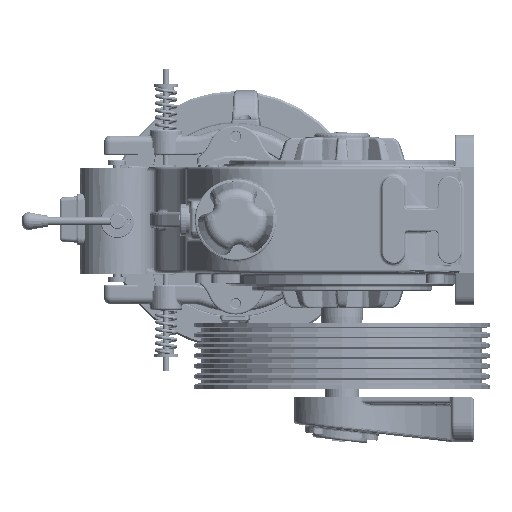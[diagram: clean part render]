
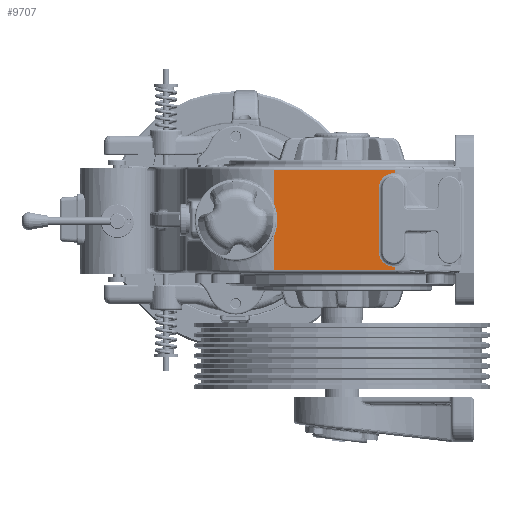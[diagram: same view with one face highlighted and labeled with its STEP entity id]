
A CAD part, left-side view. The second image highlights one B-rep face of the part: STEP entity #9707.
In plain terms, the highlighted planar face has unit normal (-1, 0, 0).
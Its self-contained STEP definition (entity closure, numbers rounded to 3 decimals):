
#4154 = CIRCLE ( 'NONE', #75237, 22.5 ) ;
#4741 = AXIS2_PLACEMENT_3D ( 'NONE', #220190, #175713, #200710 ) ;
#4987 = PLANE ( 'NONE',  #195055 ) ;
#9707 = ADVANCED_FACE ( 'NONE', ( #257783 ), #4987, .F. ) ;
#10044 = EDGE_CURVE ( 'NONE', #202578, #268101, #204014, .T. ) ;
#14829 = ORIENTED_EDGE ( 'NONE', *, *, #257390, .T. ) ;
#16286 = EDGE_CURVE ( 'NONE', #139537, #52850, #189203, .T. ) ;
#23139 = DIRECTION ( 'NONE',  ( 1., 0., 0. ) ) ;
#23365 = ORIENTED_EDGE ( 'NONE', *, *, #16286, .T. ) ;
#25845 = LINE ( 'NONE', #68920, #213532 ) ;
#31592 = AXIS2_PLACEMENT_3D ( 'NONE', #75053, #94516, #34732 ) ;
#34592 = CIRCLE ( 'NONE', #234020, 22.5 ) ;
#34732 = DIRECTION ( 'NONE',  ( 0., 0., -1. ) ) ;
#36723 = VECTOR ( 'NONE', #50627, 1000. ) ;
#38863 = VERTEX_POINT ( 'NONE', #162237 ) ;
#40858 = CARTESIAN_POINT ( 'NONE',  ( -468.28, -48.63, 138.545 ) ) ;
#44433 = VECTOR ( 'NONE', #76327, 1000. ) ;
#44445 = CARTESIAN_POINT ( 'NONE',  ( -468.28, -48.63, -21.455 ) ) ;
#45765 = DIRECTION ( 'NONE',  ( 0., 0., -1. ) ) ;
#48076 = DIRECTION ( 'NONE',  ( 0., 0., -1. ) ) ;
#48420 = EDGE_CURVE ( 'NONE', #205906, #160854, #267111, .T. ) ;
#50627 = DIRECTION ( 'NONE',  ( 0., 0., -1. ) ) ;
#51247 = CARTESIAN_POINT ( 'NONE',  ( -468.28, -234.729, -16.455 ) ) ;
#52850 = VERTEX_POINT ( 'NONE', #161197 ) ;
#55326 = EDGE_LOOP ( 'NONE', ( #78955, #169351, #201358, #23365, #69341, #14829, #149983, #190744, #159263, #251594, #75972 ) ) ;
#64231 = DIRECTION ( 'NONE',  ( 0., -1., 0. ) ) ;
#64805 = EDGE_CURVE ( 'NONE', #202578, #205906, #162023, .T. ) ;
#68920 = CARTESIAN_POINT ( 'NONE',  ( -468.28, -237.748, 138.545 ) ) ;
#69341 = ORIENTED_EDGE ( 'NONE', *, *, #71403, .F. ) ;
#69970 = EDGE_CURVE ( 'NONE', #160854, #159566, #137852, .T. ) ;
#70769 = EDGE_CURVE ( 'NONE', #166287, #183401, #111388, .T. ) ;
#71403 = EDGE_CURVE ( 'NONE', #149821, #52850, #25845, .T. ) ;
#75009 = EDGE_CURVE ( 'NONE', #183401, #38863, #201374, .T. ) ;
#75053 = CARTESIAN_POINT ( 'NONE',  ( -468.28, -234.729, 6.045 ) ) ;
#75237 = AXIS2_PLACEMENT_3D ( 'NONE', #138604, #119056, #134483 ) ;
#75972 = ORIENTED_EDGE ( 'NONE', *, *, #64805, .T. ) ;
#76327 = DIRECTION ( 'NONE',  ( 0., 0., -1. ) ) ;
#78955 = ORIENTED_EDGE ( 'NONE', *, *, #48420, .T. ) ;
#94391 = CARTESIAN_POINT ( 'NONE',  ( -468.28, -48.63, 28.556 ) ) ;
#94516 = DIRECTION ( 'NONE',  ( 1., 0., 0. ) ) ;
#97018 = VECTOR ( 'NONE', #159301, 1000. ) ;
#111388 = CIRCLE ( 'NONE', #31592, 22.5 ) ;
#119056 = DIRECTION ( 'NONE',  ( 1., 0., 0. ) ) ;
#133215 = CARTESIAN_POINT ( 'NONE',  ( -468.28, -237.748, -21.455 ) ) ;
#134483 = DIRECTION ( 'NONE',  ( 0., 0., -1. ) ) ;
#137528 = CARTESIAN_POINT ( 'NONE',  ( -468.28, -212.229, 106.045 ) ) ;
#137852 = CIRCLE ( 'NONE', #4741, 65. ) ;
#138073 = CARTESIAN_POINT ( 'NONE',  ( -468.28, -48.63, 138.545 ) ) ;
#138604 = CARTESIAN_POINT ( 'NONE',  ( -468.28, -234.729, 106.045 ) ) ;
#139537 = VERTEX_POINT ( 'NONE', #44445 ) ;
#140238 = DIRECTION ( 'NONE',  ( 0., 0., 1. ) ) ;
#141829 = CARTESIAN_POINT ( 'NONE',  ( -468.28, -48.63, 133.545 ) ) ;
#149821 = VERTEX_POINT ( 'NONE', #154066 ) ;
#149958 = CARTESIAN_POINT ( 'NONE',  ( -468.28, -48.63, 83.534 ) ) ;
#149983 = ORIENTED_EDGE ( 'NONE', *, *, #70769, .T. ) ;
#150660 = VECTOR ( 'NONE', #189392, 1000. ) ;
#154066 = CARTESIAN_POINT ( 'NONE',  ( -468.28, -237.748, -16.251 ) ) ;
#159263 = ORIENTED_EDGE ( 'NONE', *, *, #260539, .T. ) ;
#159301 = DIRECTION ( 'NONE',  ( 0., 1., 0. ) ) ;
#159566 = VERTEX_POINT ( 'NONE', #94391 ) ;
#159625 = VECTOR ( 'NONE', #64231, 1000. ) ;
#160854 = VERTEX_POINT ( 'NONE', #149958 ) ;
#161197 = CARTESIAN_POINT ( 'NONE',  ( -468.28, -237.748, -21.455 ) ) ;
#162023 = LINE ( 'NONE', #268873, #97018 ) ;
#162237 = CARTESIAN_POINT ( 'NONE',  ( -468.28, -212.229, 106.045 ) ) ;
#166287 = VERTEX_POINT ( 'NONE', #51247 ) ;
#169351 = ORIENTED_EDGE ( 'NONE', *, *, #69970, .T. ) ;
#171691 = CARTESIAN_POINT ( 'NONE',  ( -468.28, -237.748, 138.545 ) ) ;
#175713 = DIRECTION ( 'NONE',  ( 1., 0., 0. ) ) ;
#183401 = VERTEX_POINT ( 'NONE', #222503 ) ;
#188857 = CARTESIAN_POINT ( 'NONE',  ( -468.28, -234.729, 6.045 ) ) ;
#189203 = LINE ( 'NONE', #133215, #159625 ) ;
#189392 = DIRECTION ( 'NONE',  ( 0., 0., -1. ) ) ;
#190205 = DIRECTION ( 'NONE',  ( 1., 0., 0. ) ) ;
#190744 = ORIENTED_EDGE ( 'NONE', *, *, #75009, .T. ) ;
#190751 = LINE ( 'NONE', #40858, #150660 ) ;
#195055 = AXIS2_PLACEMENT_3D ( 'NONE', #171691, #23139, #236974 ) ;
#200710 = DIRECTION ( 'NONE',  ( 0., 0., -1. ) ) ;
#201358 = ORIENTED_EDGE ( 'NONE', *, *, #271143, .T. ) ;
#201374 = LINE ( 'NONE', #137528, #210367 ) ;
#202578 = VERTEX_POINT ( 'NONE', #262744 ) ;
#204014 = LINE ( 'NONE', #226241, #44433 ) ;
#205906 = VERTEX_POINT ( 'NONE', #141829 ) ;
#210367 = VECTOR ( 'NONE', #140238, 1000. ) ;
#213532 = VECTOR ( 'NONE', #48076, 1000. ) ;
#220190 = CARTESIAN_POINT ( 'NONE',  ( -468.28, 10.271, 56.045 ) ) ;
#220820 = CARTESIAN_POINT ( 'NONE',  ( -468.28, -237.748, 128.342 ) ) ;
#222503 = CARTESIAN_POINT ( 'NONE',  ( -468.28, -212.229, 6.045 ) ) ;
#226241 = CARTESIAN_POINT ( 'NONE',  ( -468.28, -237.748, 138.545 ) ) ;
#234020 = AXIS2_PLACEMENT_3D ( 'NONE', #188857, #190205, #45765 ) ;
#236974 = DIRECTION ( 'NONE',  ( 0., 0., -1. ) ) ;
#251594 = ORIENTED_EDGE ( 'NONE', *, *, #10044, .F. ) ;
#257390 = EDGE_CURVE ( 'NONE', #149821, #166287, #34592, .T. ) ;
#257783 = FACE_OUTER_BOUND ( 'NONE', #55326, .T. ) ;
#260539 = EDGE_CURVE ( 'NONE', #38863, #268101, #4154, .T. ) ;
#262744 = CARTESIAN_POINT ( 'NONE',  ( -468.28, -237.748, 133.545 ) ) ;
#267111 = LINE ( 'NONE', #138073, #36723 ) ;
#268101 = VERTEX_POINT ( 'NONE', #220820 ) ;
#268873 = CARTESIAN_POINT ( 'NONE',  ( -468.28, -237.748, 133.545 ) ) ;
#271143 = EDGE_CURVE ( 'NONE', #159566, #139537, #190751, .T. ) ;
